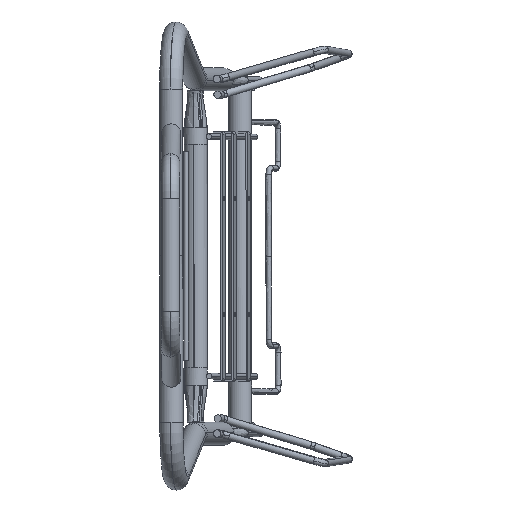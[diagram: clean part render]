
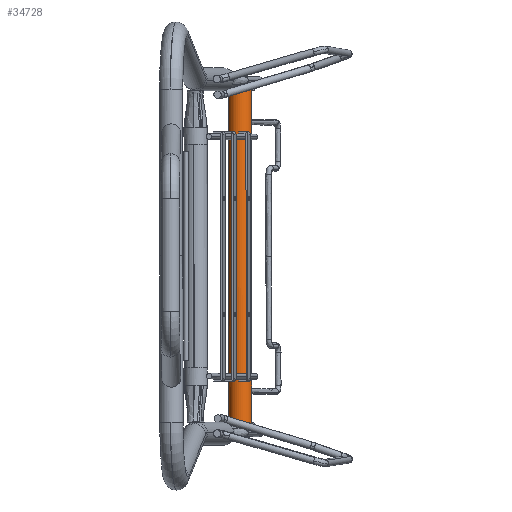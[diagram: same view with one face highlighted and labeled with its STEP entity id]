
A CAD part, top view. The second image highlights one B-rep face of the part: STEP entity #34728.
In plain terms, the highlighted cylindrical face has radius 12.5 mm (diameter 25 mm), a partial arc.
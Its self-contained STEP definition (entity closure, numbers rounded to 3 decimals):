
#34698=AXIS2_PLACEMENT_3D('Cylinder Axis2P3D',#34695,#34696,#34697) ;
#34702=AXIS2_PLACEMENT_3D('Circle Axis2P3D',#34700,#34701,$) ;
#34660=CARTESIAN_POINT('Line Origine',(677.452,-587.853,565.925)) ;
#34664=CARTESIAN_POINT('Vertex',(677.637,-901.098,565.913)) ;
#34666=CARTESIAN_POINT('Vertex',(677.417,-529.608,565.927)) ;
#34673=CARTESIAN_POINT('Vertex',(702.416,-529.593,565.647)) ;
#34676=CARTESIAN_POINT('Line Origine',(702.45,-587.838,565.644)) ;
#34680=CARTESIAN_POINT('Vertex',(702.635,-901.083,565.632)) ;
#34695=CARTESIAN_POINT('Axis2P3D Location',(689.951,-587.846,565.785)) ;
#34700=CARTESIAN_POINT('Axis2P3D Location',(689.916,-529.601,565.787)) ;
#34706=CARTESIAN_POINT('Control Point',(702.635,-901.083,565.632)) ;
#34707=CARTESIAN_POINT('Control Point',(702.657,-901.083,567.596)) ;
#34708=CARTESIAN_POINT('Control Point',(702.294,-901.084,569.563)) ;
#34709=CARTESIAN_POINT('Control Point',(701.543,-901.084,571.434)) ;
#34710=CARTESIAN_POINT('Control Point',(699.349,-901.086,574.781)) ;
#34711=CARTESIAN_POINT('Control Point',(696.052,-901.088,577.05)) ;
#34712=CARTESIAN_POINT('Control Point',(694.199,-901.089,577.842)) ;
#34713=CARTESIAN_POINT('Control Point',(690.281,-901.091,578.657)) ;
#34714=CARTESIAN_POINT('Control Point',(686.345,-901.093,577.93)) ;
#34715=CARTESIAN_POINT('Control Point',(684.474,-901.094,577.18)) ;
#34716=CARTESIAN_POINT('Control Point',(681.127,-901.096,574.986)) ;
#34717=CARTESIAN_POINT('Control Point',(678.859,-901.097,571.689)) ;
#34718=CARTESIAN_POINT('Control Point',(678.066,-901.098,569.835)) ;
#34719=CARTESIAN_POINT('Control Point',(677.659,-901.098,567.876)) ;
#34720=CARTESIAN_POINT('Control Point',(677.637,-901.098,565.913)) ;
#34661=DIRECTION('Vector Direction',(0.001,-1.,0.)) ;
#34677=DIRECTION('Vector Direction',(0.001,-1.,0.)) ;
#34696=DIRECTION('Axis2P3D Direction',(0.001,-1.,0.)) ;
#34697=DIRECTION('Axis2P3D XDirection',(1.,0.001,-0.011)) ;
#34701=DIRECTION('Axis2P3D Direction',(0.001,-1.,0.)) ;
#34662=VECTOR('Line Direction',#34661,1.) ;
#34678=VECTOR('Line Direction',#34677,1.) ;
#34723=ORIENTED_EDGE('',*,*,#34682,.T.) ;
#34724=ORIENTED_EDGE('',*,*,#34704,.T.) ;
#34725=ORIENTED_EDGE('',*,*,#34668,.F.) ;
#34726=ORIENTED_EDGE('',*,*,#34721,.F.) ;
#34728=ADVANCED_FACE('SHT0012305_AllCATPart.1\\\X2\976080CC4E0B652F64917BA1\X0\\\\X2\96F64EF651E04F554F53\X0\',(#34727),#34699,.T.) ;
#34705=B_SPLINE_CURVE_WITH_KNOTS('',5,(#34706,#34707,#34708,#34709,#34710,#34711,#34712,#34713,#34714,#34715,#34716,#34717,#34718,#34719,#34720),.UNSPECIFIED.,.F.,.U.,(6,3,3,3,6),(-19.635,-9.817,0.,9.817,19.635),.UNSPECIFIED.) ;
#34703=CIRCLE('generated circle',#34702,12.5) ;
#34699=CYLINDRICAL_SURFACE('generated cylinder',#34698,12.5) ;
#34668=EDGE_CURVE('',#34665,#34667,#34663,.F.) ;
#34682=EDGE_CURVE('',#34681,#34674,#34679,.F.) ;
#34704=EDGE_CURVE('',#34674,#34667,#34703,.T.) ;
#34721=EDGE_CURVE('',#34681,#34665,#34705,.T.) ;
#34722=EDGE_LOOP('',(#34723,#34724,#34725,#34726)) ;
#34727=FACE_OUTER_BOUND('',#34722,.T.) ;
#34663=LINE('Line',#34660,#34662) ;
#34679=LINE('Line',#34676,#34678) ;
#34665=VERTEX_POINT('',#34664) ;
#34667=VERTEX_POINT('',#34666) ;
#34674=VERTEX_POINT('',#34673) ;
#34681=VERTEX_POINT('',#34680) ;
